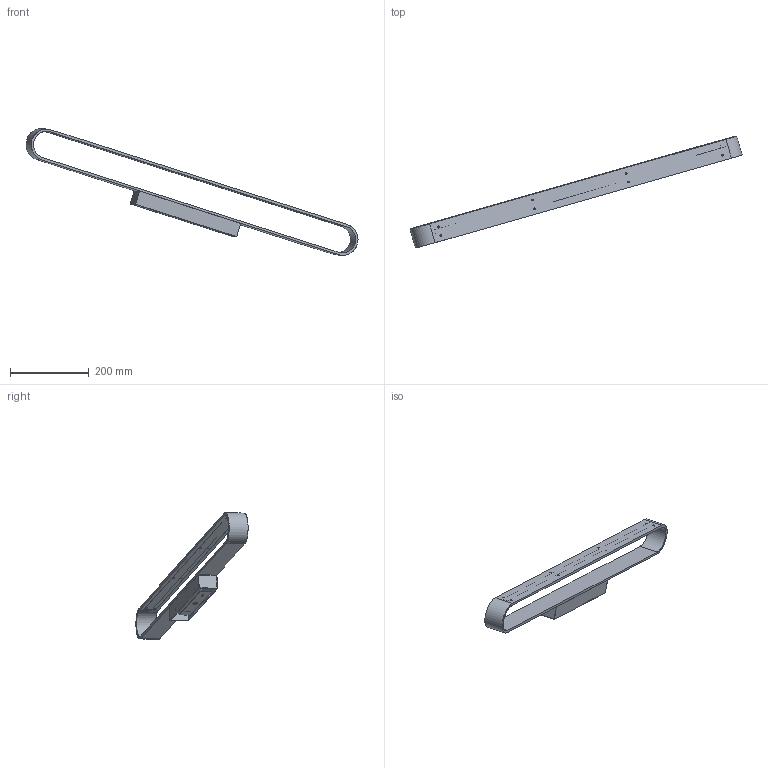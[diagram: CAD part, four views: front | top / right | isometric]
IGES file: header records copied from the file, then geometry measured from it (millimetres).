
Start section: SolidWorks IGES file using analytic representation for surfaces
Global section: file name: \\srvficheros\grupos\DISENYO\DESARROLLO DE PRODUCTO\_3D_WEB\GALA-A3189273\GALA-A3189273.IGS; native system: SolidWorks 2025; preprocessor: SolidWorks 2025; author: d.pons; date: 260114.074318; units: millimetre
Bounding box: 844.11 x 285.15 x 321.88 mm (x, y, z)
Surface area: 368838 mm2 (no closed solid volume)
Topology: 0 solids, 0 shells, 570 faces, 9857 edges, 9851 vertices
Faces by surface type: revolution 343, bspline 227
